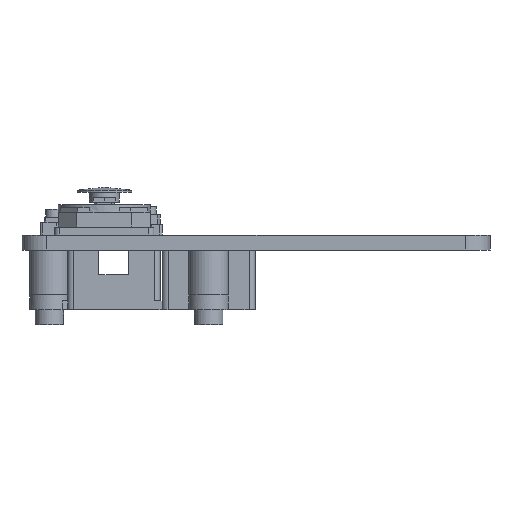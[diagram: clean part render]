
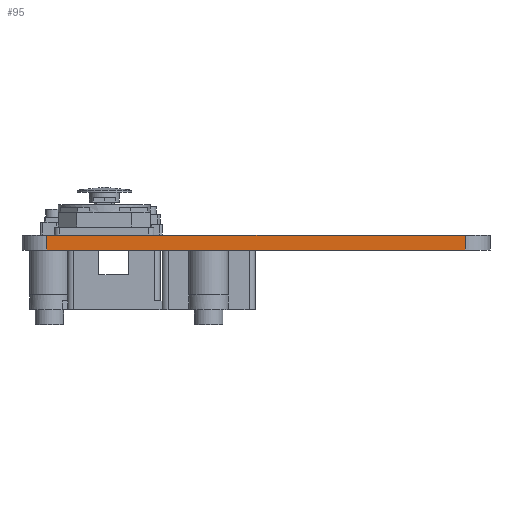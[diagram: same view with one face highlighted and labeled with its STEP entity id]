
A CAD part, left-side view. The second image highlights one B-rep face of the part: STEP entity #95.
In plain terms, the highlighted planar face has unit normal (-1, 0, 0).
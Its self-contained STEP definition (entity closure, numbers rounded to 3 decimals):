
#95 = ADVANCED_FACE('',(#96),#110,.F.);
#96 = FACE_BOUND('',#97,.F.);
#97 = EDGE_LOOP('',(#98,#133,#161,#189));
#98 = ORIENTED_EDGE('',*,*,#99,.F.);
#99 = EDGE_CURVE('',#100,#102,#104,.T.);
#100 = VERTEX_POINT('',#101);
#101 = CARTESIAN_POINT('',(-47.,-42.,25.));
#102 = VERTEX_POINT('',#103);
#103 = CARTESIAN_POINT('',(-47.,42.,25.));
#104 = SURFACE_CURVE('',#105,(#109,#121),.PCURVE_S1.);
#105 = LINE('',#106,#107);
#106 = CARTESIAN_POINT('',(-47.,-47.,25.));
#107 = VECTOR('',#108,1.);
#108 = DIRECTION('',(0.,1.,0.));
#109 = PCURVE('',#110,#115);
#110 = PLANE('',#111);
#111 = AXIS2_PLACEMENT_3D('',#112,#113,#114);
#112 = CARTESIAN_POINT('',(-47.,-47.,22.));
#113 = DIRECTION('',(1.,0.,0.));
#114 = DIRECTION('',(0.,0.,1.));
#115 = DEFINITIONAL_REPRESENTATION('',(#116),#120);
#116 = LINE('',#117,#118);
#117 = CARTESIAN_POINT('',(3.,0.));
#118 = VECTOR('',#119,1.);
#119 = DIRECTION('',(0.,-1.));
#120 = ( GEOMETRIC_REPRESENTATION_CONTEXT(2) 
PARAMETRIC_REPRESENTATION_CONTEXT() REPRESENTATION_CONTEXT('2D SPACE',''
  ) );
#121 = PCURVE('',#122,#127);
#122 = PLANE('',#123);
#123 = AXIS2_PLACEMENT_3D('',#124,#125,#126);
#124 = CARTESIAN_POINT('',(-47.,-47.,25.));
#125 = DIRECTION('',(0.,0.,1.));
#126 = DIRECTION('',(1.,0.,-0.));
#127 = DEFINITIONAL_REPRESENTATION('',(#128),#132);
#128 = LINE('',#129,#130);
#129 = CARTESIAN_POINT('',(0.,0.));
#130 = VECTOR('',#131,1.);
#131 = DIRECTION('',(0.,1.));
#132 = ( GEOMETRIC_REPRESENTATION_CONTEXT(2) 
PARAMETRIC_REPRESENTATION_CONTEXT() REPRESENTATION_CONTEXT('2D SPACE',''
  ) );
#133 = ORIENTED_EDGE('',*,*,#134,.F.);
#134 = EDGE_CURVE('',#135,#100,#137,.T.);
#135 = VERTEX_POINT('',#136);
#136 = CARTESIAN_POINT('',(-47.,-42.,22.));
#137 = SURFACE_CURVE('',#138,(#142,#149),.PCURVE_S1.);
#138 = LINE('',#139,#140);
#139 = CARTESIAN_POINT('',(-47.,-42.,22.));
#140 = VECTOR('',#141,1.);
#141 = DIRECTION('',(0.,0.,1.));
#142 = PCURVE('',#110,#143);
#143 = DEFINITIONAL_REPRESENTATION('',(#144),#148);
#144 = LINE('',#145,#146);
#145 = CARTESIAN_POINT('',(0.,-5.));
#146 = VECTOR('',#147,1.);
#147 = DIRECTION('',(1.,0.));
#148 = ( GEOMETRIC_REPRESENTATION_CONTEXT(2) 
PARAMETRIC_REPRESENTATION_CONTEXT() REPRESENTATION_CONTEXT('2D SPACE',''
  ) );
#149 = PCURVE('',#150,#155);
#150 = CYLINDRICAL_SURFACE('',#151,5.);
#151 = AXIS2_PLACEMENT_3D('',#152,#153,#154);
#152 = CARTESIAN_POINT('',(-42.,-42.,22.));
#153 = DIRECTION('',(0.,0.,1.));
#154 = DIRECTION('',(-1.,-0.,0.));
#155 = DEFINITIONAL_REPRESENTATION('',(#156),#160);
#156 = LINE('',#157,#158);
#157 = CARTESIAN_POINT('',(0.,0.));
#158 = VECTOR('',#159,1.);
#159 = DIRECTION('',(0.,1.));
#160 = ( GEOMETRIC_REPRESENTATION_CONTEXT(2) 
PARAMETRIC_REPRESENTATION_CONTEXT() REPRESENTATION_CONTEXT('2D SPACE',''
  ) );
#161 = ORIENTED_EDGE('',*,*,#162,.T.);
#162 = EDGE_CURVE('',#135,#163,#165,.T.);
#163 = VERTEX_POINT('',#164);
#164 = CARTESIAN_POINT('',(-47.,42.,22.));
#165 = SURFACE_CURVE('',#166,(#170,#177),.PCURVE_S1.);
#166 = LINE('',#167,#168);
#167 = CARTESIAN_POINT('',(-47.,-47.,22.));
#168 = VECTOR('',#169,1.);
#169 = DIRECTION('',(0.,1.,0.));
#170 = PCURVE('',#110,#171);
#171 = DEFINITIONAL_REPRESENTATION('',(#172),#176);
#172 = LINE('',#173,#174);
#173 = CARTESIAN_POINT('',(0.,0.));
#174 = VECTOR('',#175,1.);
#175 = DIRECTION('',(0.,-1.));
#176 = ( GEOMETRIC_REPRESENTATION_CONTEXT(2) 
PARAMETRIC_REPRESENTATION_CONTEXT() REPRESENTATION_CONTEXT('2D SPACE',''
  ) );
#177 = PCURVE('',#178,#183);
#178 = PLANE('',#179);
#179 = AXIS2_PLACEMENT_3D('',#180,#181,#182);
#180 = CARTESIAN_POINT('',(-47.,-47.,22.));
#181 = DIRECTION('',(0.,0.,1.));
#182 = DIRECTION('',(1.,0.,-0.));
#183 = DEFINITIONAL_REPRESENTATION('',(#184),#188);
#184 = LINE('',#185,#186);
#185 = CARTESIAN_POINT('',(0.,0.));
#186 = VECTOR('',#187,1.);
#187 = DIRECTION('',(0.,1.));
#188 = ( GEOMETRIC_REPRESENTATION_CONTEXT(2) 
PARAMETRIC_REPRESENTATION_CONTEXT() REPRESENTATION_CONTEXT('2D SPACE',''
  ) );
#189 = ORIENTED_EDGE('',*,*,#190,.T.);
#190 = EDGE_CURVE('',#163,#102,#191,.T.);
#191 = SURFACE_CURVE('',#192,(#196,#203),.PCURVE_S1.);
#192 = LINE('',#193,#194);
#193 = CARTESIAN_POINT('',(-47.,42.,22.));
#194 = VECTOR('',#195,1.);
#195 = DIRECTION('',(0.,0.,1.));
#196 = PCURVE('',#110,#197);
#197 = DEFINITIONAL_REPRESENTATION('',(#198),#202);
#198 = LINE('',#199,#200);
#199 = CARTESIAN_POINT('',(0.,-89.));
#200 = VECTOR('',#201,1.);
#201 = DIRECTION('',(1.,0.));
#202 = ( GEOMETRIC_REPRESENTATION_CONTEXT(2) 
PARAMETRIC_REPRESENTATION_CONTEXT() REPRESENTATION_CONTEXT('2D SPACE',''
  ) );
#203 = PCURVE('',#204,#209);
#204 = CYLINDRICAL_SURFACE('',#205,5.);
#205 = AXIS2_PLACEMENT_3D('',#206,#207,#208);
#206 = CARTESIAN_POINT('',(-42.,42.,22.));
#207 = DIRECTION('',(0.,0.,1.));
#208 = DIRECTION('',(-1.,-0.,0.));
#209 = DEFINITIONAL_REPRESENTATION('',(#210),#214);
#210 = LINE('',#211,#212);
#211 = CARTESIAN_POINT('',(6.283,0.));
#212 = VECTOR('',#213,1.);
#213 = DIRECTION('',(-0.,1.));
#214 = ( GEOMETRIC_REPRESENTATION_CONTEXT(2) 
PARAMETRIC_REPRESENTATION_CONTEXT() REPRESENTATION_CONTEXT('2D SPACE',''
  ) );
